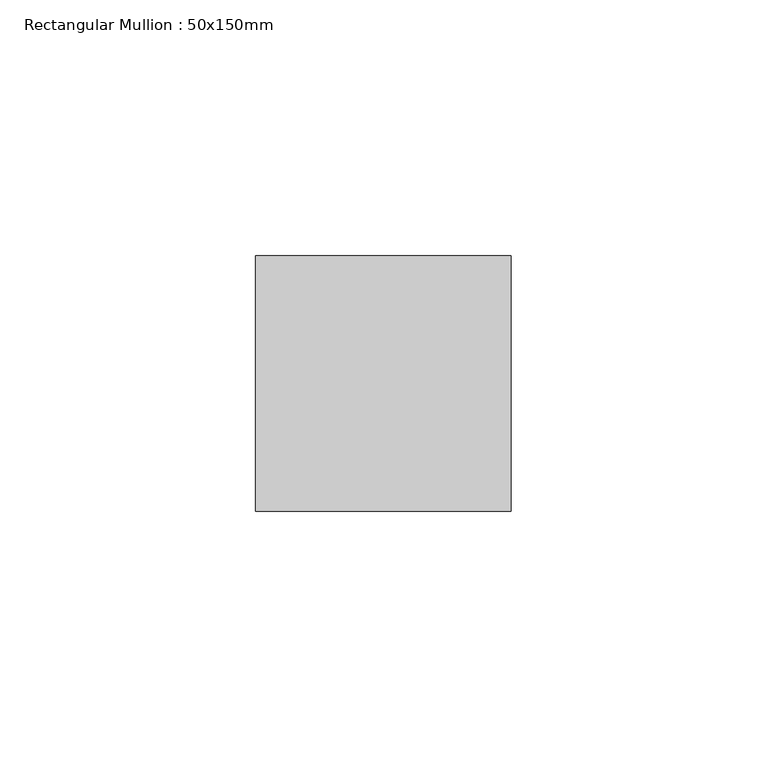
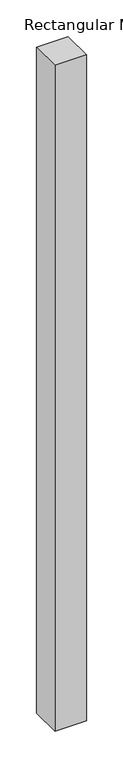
"""IFC4 building model written with IfcOpenShell, lengths in millimetres: member geometry, Rectangular Mullion : 50x150mm."""

import ifcopenshell
import ifcopenshell.guid

model = None  # the IFC model being written
_history = None  # IfcOwnerHistory: only IFC2X3 demands one
_inside = {}  # id of a spatial element -> (the spatial element, [elements in it])
_under = {}  # id of a project, library or spatial element -> (it, [spatial elements below it])
_declared = {}  # id of a project -> (the project, [libraries it declares])
_typed = {}  # id of a type object -> (the type object, [elements of that type])
_made_of = {}  # id of a material, layer set ... -> (it, [elements and type objects made of it])


def new_model(schema):
    """Start an empty IFC model of exactly this schema.

    Asked for "IFC4X3", IfcOpenShell would pick the latest addendum, in which some entities
    have other attributes; the version numbers below select the first issue.
    IFC2X3 requires an IfcOwnerHistory on every rooted entity: one is made here for all.
    """
    global model, _history
    if schema == "IFC4X3":
        model = ifcopenshell.file(schema_version=(4, 3, 0, 0))
    else:
        model = ifcopenshell.file(schema=schema)
    _inside.clear()
    _under.clear()
    _declared.clear()
    _typed.clear()
    _made_of.clear()
    _history = None
    if model.schema == "IFC2X3":
        org = make("IfcOrganization", Name="unknown")
        user = make(
            "IfcPersonAndOrganization",
            ThePerson=make("IfcPerson", FamilyName="unknown"),
            TheOrganization=org,
        )
        app = make(
            "IfcApplication",
            ApplicationDeveloper=org,
            Version="unknown",
            ApplicationFullName="unknown",
            ApplicationIdentifier="unknown",
        )
        _history = make(
            "IfcOwnerHistory",
            OwningUser=user,
            OwningApplication=app,
            ChangeAction="ADDED",
            CreationDate=0,
        )
    return model


def make(cls, **values):
    """One entity of the class cls with the attributes given. An attribute that is None is left unset."""
    return model.create_entity(
        cls, **{name: value for name, value in values.items() if value is not None}
    )


def rooted(cls, **values):
    """An entity with a GlobalId (a new one), such as an element, a storey or a relation."""
    return make(cls, GlobalId=ifcopenshell.guid.new(), OwnerHistory=_history, **values)


def si_unit(unit_type, name, prefix=None):
    """IfcSIUnit, for example si_unit("LENGTHUNIT", "METRE", prefix="MILLI")."""
    return make("IfcSIUnit", UnitType=unit_type, Prefix=prefix, Name=name)


def assignment(units):
    """IfcUnitAssignment: the units of a project."""
    return None if units is None else make("IfcUnitAssignment", Units=units)


def point(xyz):
    """IfcCartesianPoint."""
    return None if xyz is None else make("IfcCartesianPoint", Coordinates=xyz)


def direction(xyz):
    """IfcDirection."""
    return None if xyz is None else make("IfcDirection", DirectionRatios=xyz)


def frame(location, z_axis=None, x_axis=None):
    """IfcAxis2Placement3D, a coordinate frame: its origin and axes. An axis left out is left unset."""
    return make(
        "IfcAxis2Placement3D",
        Location=point(location),
        Axis=direction(z_axis),
        RefDirection=direction(x_axis),
    )


def origin():
    """The frame at (0, 0, 0) with its axes left unset."""
    return frame((0.0, 0.0, 0.0))


def place(relative_to, where):
    """IfcLocalPlacement: puts the frame where relative to a parent placement (None: the world)."""
    return make(
        "IfcLocalPlacement", PlacementRelTo=relative_to, RelativePlacement=where
    )


def context(
    kind, dimensions, precision=None, world=None, true_north=None, identifier=None
):
    """IfcGeometricRepresentationContext, for example the 3D "Model" context."""
    return make(
        "IfcGeometricRepresentationContext",
        ContextIdentifier=identifier,
        ContextType=kind,
        CoordinateSpaceDimension=dimensions,
        Precision=precision,
        WorldCoordinateSystem=world,
        TrueNorth=true_north,
    )


def project(units=None, contexts=None):
    """IfcProject with its units and contexts."""
    return rooted(
        "IfcProject",
        Name="project",
        RepresentationContexts=contexts,
        UnitsInContext=assignment(units),
    )


def spatial(cls, under=None, at=None, **own):
    """A site, building, storey or space (cls), placed at a placement, below another one or the project."""
    s = rooted(cls, ObjectPlacement=at, **own)
    if under is not None:
        _under.setdefault(under.id(), (under, []))[1].append(s)
    return s


def polyline(points):
    """IfcPolyline through the points."""
    return make("IfcPolyline", Points=[point(p) for p in points])


def outline(outer, holes=None, kind="AREA"):
    """IfcArbitraryClosedProfileDef: a profile drawn as a closed curve; with holes, ...WithVoids."""
    if holes is None:
        return make("IfcArbitraryClosedProfileDef", ProfileType=kind, OuterCurve=outer)
    return make(
        "IfcArbitraryProfileDefWithVoids",
        ProfileType=kind,
        OuterCurve=outer,
        InnerCurves=holes,
    )


def extrude(swept, where, along, depth):
    """IfcExtrudedAreaSolid: the profile swept, set in the frame where, extruded along a direction by depth."""
    return make(
        "IfcExtrudedAreaSolid",
        SweptArea=swept,
        Position=where,
        ExtrudedDirection=direction(along),
        Depth=depth,
    )


def shape(context_of_items, identifier, shape_type, items):
    """IfcShapeRepresentation: the items that make up one representation, for example the "Body"."""
    return make(
        "IfcShapeRepresentation",
        ContextOfItems=context_of_items,
        RepresentationIdentifier=identifier,
        RepresentationType=shape_type,
        Items=items,
    )


def source(mapping_origin, context_of_items, identifier, shape_type, items):
    """IfcRepresentationMap: a shape defined once, which mapped items show again and again."""
    return make(
        "IfcRepresentationMap",
        MappingOrigin=mapping_origin,
        MappedRepresentation=shape(context_of_items, identifier, shape_type, items),
    )


def transform(
    local_origin,
    x_axis=None,
    y_axis=None,
    z_axis=None,
    scale=None,
    scale2=None,
    scale3=None,
    uniform=True,
):
    """IfcCartesianTransformationOperator3D, or its non-uniform kind. x_axis, y_axis, z_axis: its Axis1, 2, 3."""
    if uniform:
        return make(
            "IfcCartesianTransformationOperator3D",
            Axis1=direction(x_axis),
            Axis2=direction(y_axis),
            LocalOrigin=point(local_origin),
            Scale=scale,
            Axis3=direction(z_axis),
        )
    return make(
        "IfcCartesianTransformationOperator3DnonUniform",
        Axis1=direction(x_axis),
        Axis2=direction(y_axis),
        LocalOrigin=point(local_origin),
        Scale=scale,
        Axis3=direction(z_axis),
        Scale2=scale2,
        Scale3=scale3,
    )


def mapped(mapping_source, mapping_target):
    """IfcMappedItem: shows the shape of a source again, moved by a transform."""
    return make(
        "IfcMappedItem", MappingSource=mapping_source, MappingTarget=mapping_target
    )


def made_of(thing, what):
    """Note that an element or type object is made of a material, layer set ...; save() writes the relation."""
    if what is not None:
        _made_of.setdefault(what.id(), (what, []))[1].append(thing)
    return thing


def element(
    cls,
    number,
    at=None,
    inside=None,
    cuts=None,
    type_object=None,
    material=None,
    context=None,
    identifier="Body",
    shape_type=None,
    held_by="IfcProductDefinitionShape",
    body=None,
    shapes=None,
    **own,
):
    """One element of the class cls, such as IfcWall. Its Tag is "e" and its number.

    at: its placement. inside: the storey or other place that contains it. cuts: it is an
    opening in that element (IfcRelVoidsElement). A single representation is given by context,
    identifier, shape_type and body (its items); several are given by shapes. held_by: the class
    of the entity that holds the representations. save() writes the other relations.
    """
    e = rooted(cls, Tag="e%d" % number, ObjectPlacement=at, **own)
    if body is not None:
        shapes = [shape(context, identifier, shape_type, body)]
    if shapes is not None:
        e.Representation = make(held_by, Representations=shapes)
    if inside is not None:
        _inside.setdefault(inside.id(), (inside, []))[1].append(e)
    if cuts is not None:
        rooted(
            "IfcRelVoidsElement", RelatingBuildingElement=cuts, RelatedOpeningElement=e
        )
    if type_object is not None:
        _typed.setdefault(type_object.id(), (type_object, []))[1].append(e)
    return made_of(e, material)


def aggregate(whole, parts):
    """IfcRelAggregates: a whole, such as a stair, and the parts it consists of."""
    return rooted("IfcRelAggregates", RelatingObject=whole, RelatedObjects=parts)


def save(model, path):
    """Write the relations noted so far, then the file.

    IfcRelAggregates (storeys below a building ...), IfcRelContainedInSpatialStructure (elements
    in a storey), IfcRelDefinesByType, IfcRelAssociatesMaterial and IfcRelDeclares: one each for
    every whole, place, type object, material and project.
    """
    for whole, parts in _under.values():
        aggregate(whole, parts)
    for where, things in _inside.values():
        rooted(
            "IfcRelContainedInSpatialStructure",
            RelatedElements=things,
            RelatingStructure=where,
        )
    for kind, things in _typed.values():
        rooted("IfcRelDefinesByType", RelatedObjects=things, RelatingType=kind)
    for what, things in _made_of.values():
        rooted("IfcRelAssociatesMaterial", RelatedObjects=things, RelatingMaterial=what)
    for by, libraries in _declared.values():
        rooted("IfcRelDeclares", RelatingContext=by, RelatedDefinitions=libraries)
    model.write(path)


def rectangular_mullion_50x150mm_d6dec429(model_context):
    return source(origin(), model_context, "Body", "SweptSolid", [
        extrude(outline(polyline([(0.0, 25.0), (0.0, -25.0), (-50.0, -25.0), (-50.0, 25.0), (0.0, 25.0)])), frame((0.0, 0.0, -1108.4529299), z_axis=(0.0, 0.0, 1.0), x_axis=(1.0, 0.0, 0.0)), (0.0, 0.0, 1.0), 1108.4529299),
    ])


if __name__ == "__main__":
    model = new_model("IFC4")
    model_context = context("Model", 3, world=origin())
    ifc_project = project(units=[si_unit("LENGTHUNIT", "METRE", prefix="MILLI")], contexts=[model_context])
    site = spatial("IfcSite", under=ifc_project)
    building = spatial("IfcBuilding", under=site)
    placement = place(None, origin())
    rectangular_mullion_50x150mm_shape = rectangular_mullion_50x150mm_d6dec429(model_context)
    element("IfcMember", 1, ObjectType="Rectangular Mullion : 50x150mm", at=placement, inside=building, context=model_context, shape_type="MappedRepresentation", body=[
        mapped(rectangular_mullion_50x150mm_shape, transform((0.0, 0.0, 0.0), x_axis=(1.0, 0.0, 0.0), y_axis=(0.0, 1.0, 0.0), z_axis=(0.0, 0.0, 1.0))),
    ])
    save(model, "model.ifc")
